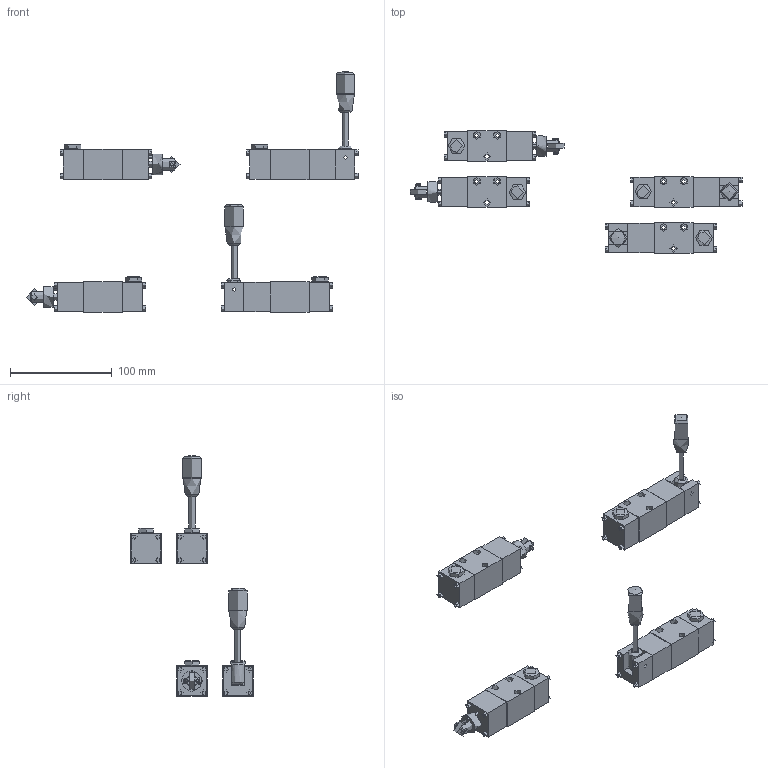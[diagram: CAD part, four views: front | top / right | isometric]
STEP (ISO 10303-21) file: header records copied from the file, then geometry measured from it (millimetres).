
FILE_DESCRIPTION(('Bauteilbeschreibung','HiCAD-Model','HiCAD-STEP-TRANSLATION','Bauteilbeschreibung'),'2;1');
FILE_NAME('K:/STEP_DXF/WD_FA03.STP','2006-08-07T09:02:40+00:00',('Konstrukteur'),('Konstrukteur Firma GmbH'),'HiCAD3 V1210 STEP 1.6.2005','HiCAD3 V1210','confidential');
FILE_SCHEMA(('AUTOMOTIVE_DESIGN { 1 2 10303 214 0 1 1 1 }'));
Length unit declared in the file: millimetre
Products named in the file (89): WD_FA03; WDHFA03__1; AF1CFE91; ABE2FDB8; ABE2FDB80; IN6KTM3; IN6KTM30; IN6KTM31; IN6KTM32; IN6KTM33; AC9BECA4; C57660A4; A88535E7; A88535E70; IN6KTM34; IN6KTM35; IN6KTM36; IN6KTM37; IN6KTM38; HANDHEBE; GRIFF; BOLZEN; WDTFA03__1; FF5D6790; ABE2FDB81; ABE2FDB82; IN6KTM39; IN6KTM310; IN6KTM311; IN6KTM312; IN6KTM313; AC9BECA40; C57660A40; B5E42074; B5E420740; STIFT; ROLLE; KOLBEN; STIFT0; RING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
Assembly tree (88 placements, depth 6):
  WD_FA03
    WDHFA03__1
      AF1CFE91
        ABE2FDB8
        ABE2FDB80
          IN6KTM3
            IN6KTM30
            IN6KTM31
            IN6KTM32
            IN6KTM33
        AC9BECA4
        C57660A4
        A88535E7
        A88535E70
          IN6KTM34
            IN6KTM35
            IN6KTM36
            IN6KTM37
            IN6KTM38
          HANDHEBE
            GRIFF
            BOLZEN
    WDTFA03__1
      FF5D6790
        ABE2FDB81
        ABE2FDB82
          IN6KTM39
            IN6KTM310
            IN6KTM311
            IN6KTM312
            IN6KTM313
        AC9BECA40
        C57660A40
        B5E42074
        B5E420740
          STIFT
          ROLLE
          KOLBEN
          STIFT0
          RING
        IN6KTM314
          IN6KTM315
          IN6KTM316
          IN6KTM317
          IN6KTM318
    WDTFA03__2
      A9E32512
        ABE2FDB83
        ABE2FDB84
          IN6KTM319
            IN6KTM320
            IN6KTM321
            IN6KTM322
            IN6KTM323
        AC9BECA41
        C57660A41
        B5E420741
        B5E420742
          STIFT1
          ROLLE0
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Bounding box: 325.5 x 120 x 236 mm (x, y, z)
Topology: 62 solids, 78 shells, 784 faces, 1767 edges, 1205 vertices
Faces by surface type: plane 518, cylinder 214, cone 44, torus 6, sphere 2
Full cylindrical faces by diameter (mm): 2 x6, 2.5 x32, 2.99 x4, 3.2 x2, 3.5 x40, 4 x16, 4.2 x12, 5.5 x32, 6 x8, 7 x20, 7.5 x12, 13.5 x4, 16 x2, 18 x2, 20 x2
Entity records: 45672 total; most frequent: CARTESIAN_POINT 13628, DIRECTION 3680, ORIENTED_EDGE 2804, COLOUR_RGB 2248, PRESENTATION_STYLE_ASSIGNMENT 2248, OVER_RIDING_STYLED_ITEM 2186, AXIS2_PLACEMENT_3D 1402, CURVE_STYLE 1402
